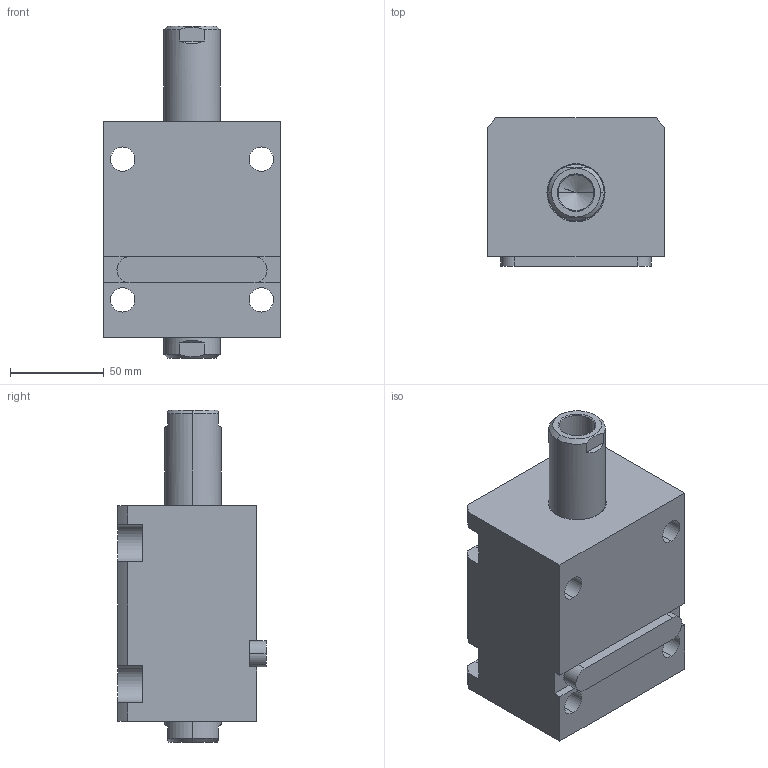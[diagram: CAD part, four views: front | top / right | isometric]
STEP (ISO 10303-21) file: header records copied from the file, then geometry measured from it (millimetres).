
FILE_DESCRIPTION (( 'STEP AP203' ), '1' );
FILE_NAME ('CHTB-LW50-40N.STEP', '2018-05-18T07:41:04', ( '' ), ( '' ), 'SwSTEP 2.0', 'SolidWorks 2015', '' );
FILE_SCHEMA (( 'CONFIG_CONTROL_DESIGN' ));
Length unit declared in the file: millimetre
Products named in the file (4): 活塞杆LW50-40N; CHTB-LW50-40N; CHTM-SDMA50QG; 掛极LW50-40N
Assembly tree (3 placements, depth 2):
  CHTB-LW50-40N
    掛极LW50-40N
    活塞杆LW50-40N
    CHTM-SDMA50QG
Bounding box: 94 x 79 x 177 mm (x, y, z)
Volume: 720479.6 mm3; surface area: 121208.5 mm2
Topology: 3 solids, 3 shells, 221 faces, 588 edges, 385 vertices
Faces by surface type: cylinder 102, plane 58, cone 31, torus 16, bspline 14
Entity records: 11831 total; most frequent: CARTESIAN_POINT 6126, ORIENTED_EDGE 1160, DIRECTION 1056, EDGE_CURVE 580, AXIS2_PLACEMENT_3D 416, VERTEX_POINT 385, EDGE_LOOP 257, VECTOR 224
